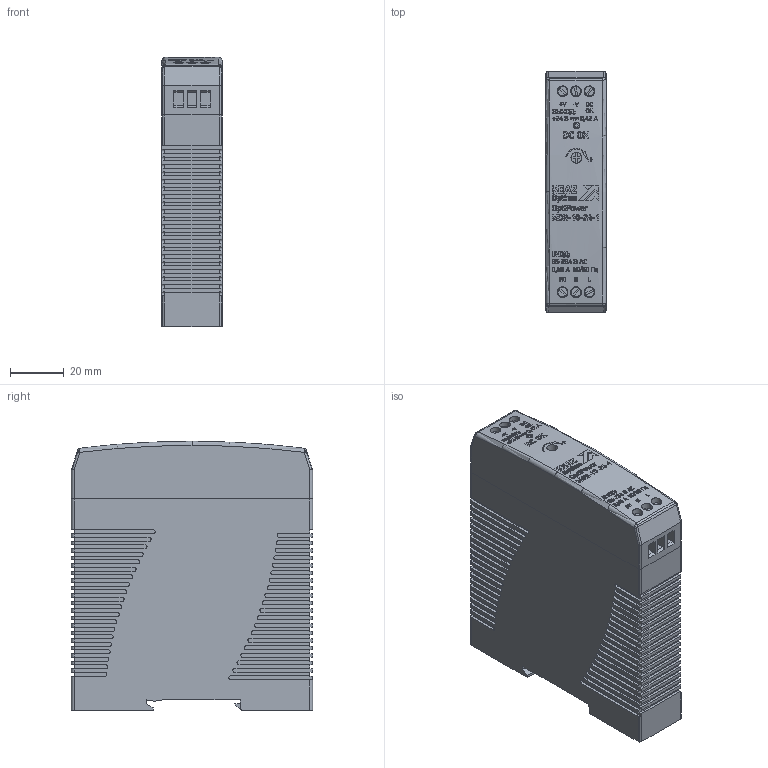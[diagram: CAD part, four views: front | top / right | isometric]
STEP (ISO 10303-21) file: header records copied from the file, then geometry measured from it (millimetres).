
FILE_DESCRIPTION (( 'STEP AP214' ), '1' );
FILE_NAME ('Meanwell MDR-10-24(KEAZ).STEP', '2019-07-31T07:55:08', ( '' ), ( '' ), 'SwSTEP 2.0', 'SolidWorks 2018', '' );
FILE_SCHEMA (( 'AUTOMOTIVE_DESIGN' ));
Length unit declared in the file: millimetre
Products named in the file (1): Meanwell MDR-10-24(KEAZ)
Bounding box: 22.5 x 90 x 100.5 mm (x, y, z)
Volume: 192941.7 mm3; surface area: 36301.4 mm2
Topology: 8 solids, 8 shells, 959 faces, 3420 edges, 2631 vertices
Faces by surface type: plane 520, cylinder 365, bspline 69, torus 5
Entity records: 60830 total; most frequent: CARTESIAN_POINT 30468, ORIENTED_EDGE 6832, DIRECTION 4937, EDGE_CURVE 3416, VERTEX_POINT 2631, LINE 1807, VECTOR 1807, AXIS2_PLACEMENT_3D 1565
